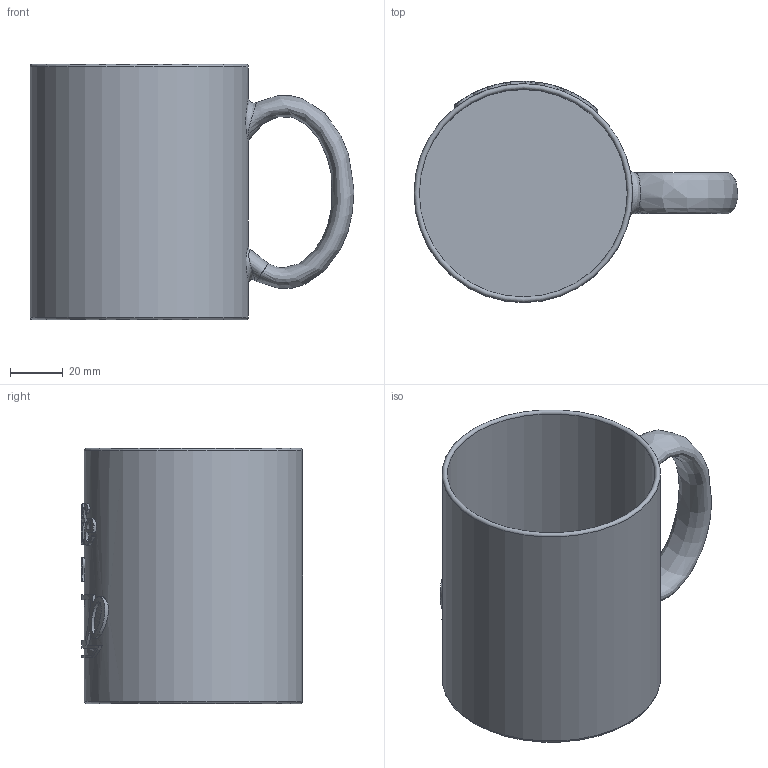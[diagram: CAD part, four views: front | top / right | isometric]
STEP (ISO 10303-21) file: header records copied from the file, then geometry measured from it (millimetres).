
FILE_DESCRIPTION(/* description */ (''),/* implementation_level */ '2;1');
FILE_NAME(/* name */ 'Taza_FaltaLetra.stp',/* time_stamp */ '2026-06-15T21:42:43+02:00',/* author */ ('algob'),/* organization */ (''),/* preprocessor_version */ 'ST-DEVELOPER v19.2',/* originating_system */ 'Autodesk Inventor 2024',/* authorisation */ '');
FILE_SCHEMA (('AUTOMOTIVE_DESIGN { 1 0 10303 214 3 1 1 }'));
Length unit declared in the file: millimetre
Products named in the file (1): Taza_Base
Bounding box: 123.08 x 84 x 97 mm (x, y, z)
Volume: 96228 mm3; surface area: 63134.9 mm2
Topology: 1 solids, 1 shells, 144 faces, 386 edges, 258 vertices
Faces by surface type: bspline 63, plane 54, cylinder 25, torus 2
Full cylindrical faces by diameter (mm): 79 x1, 83 x1
Entity records: 7226 total; most frequent: CARTESIAN_POINT 3918, ORIENTED_EDGE 772, DIRECTION 517, EDGE_CURVE 386, VERTEX_POINT 258, AXIS2_PLACEMENT_3D 198, EDGE_LOOP 160, B_SPLINE_CURVE_WITH_KNOTS 149
